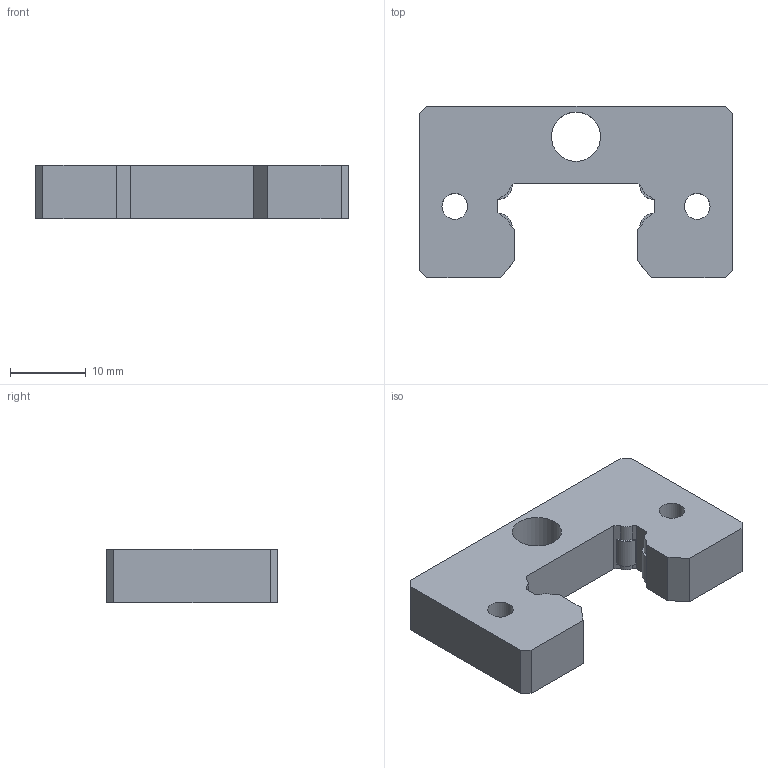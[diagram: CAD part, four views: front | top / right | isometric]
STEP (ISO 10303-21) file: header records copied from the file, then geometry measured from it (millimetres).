
FILE_DESCRIPTION (( 'STEP AP203' ), '1' );
FILE_NAME ('MF 20A (CLS).STEP', '2014-12-02T23:38:29', ( 'john' ), ( '' ), 'SwSTEP 2.0', 'SolidWorks 2013', '' );
FILE_SCHEMA (( 'CONFIG_CONTROL_DESIGN' ));
Length unit declared in the file: millimetre
Products named in the file (1): MF 20A (CLS)
Bounding box: 41.4 x 22.6 x 7 mm (x, y, z)
Volume: 4637 mm3; surface area: 2687.9 mm2
Topology: 1 solids, 1 shells, 49 faces, 141 edges, 94 vertices
Faces by surface type: plane 34, cylinder 15
Full cylindrical faces by diameter (mm): 3.4 x2, 6.5 x1
Entity records: 1679 total; most frequent: CARTESIAN_POINT 282, ORIENTED_EDGE 276, DIRECTION 268, EDGE_CURVE 138, LINE 108, VECTOR 108, VERTEX_POINT 94, AXIS2_PLACEMENT_3D 80
